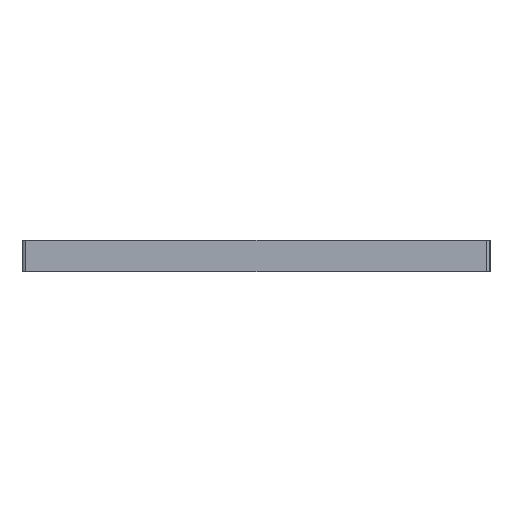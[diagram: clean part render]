
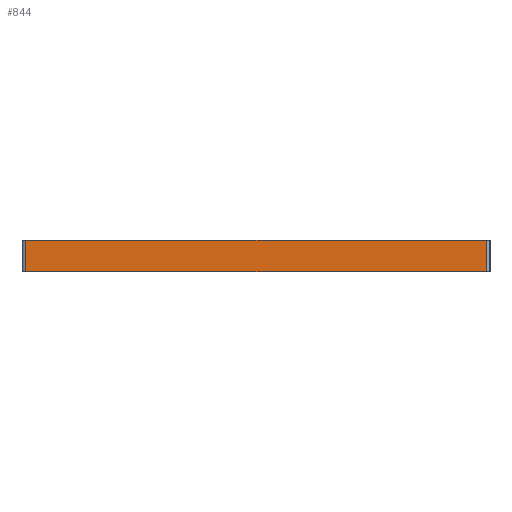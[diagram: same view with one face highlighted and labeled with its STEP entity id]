
A CAD part, left-side view. The second image highlights one B-rep face of the part: STEP entity #844.
In plain terms, the highlighted planar face has unit normal (-1, 0, 0).
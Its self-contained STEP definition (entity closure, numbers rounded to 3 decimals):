
#817=AXIS2_PLACEMENT_3D('Plane Axis2P3D',#814,#815,#816) ;
#64=CARTESIAN_POINT('Vertex',(0.,-2.5,20.)) ;
#67=CARTESIAN_POINT('Line Origine',(0.,-150.,20.)) ;
#71=CARTESIAN_POINT('Vertex',(0.,-297.5,20.)) ;
#814=CARTESIAN_POINT('Axis2P3D Location',(0.,0.,0.)) ;
#819=CARTESIAN_POINT('Line Origine',(0.,-2.5,10.)) ;
#823=CARTESIAN_POINT('Vertex',(0.,-2.5,0.)) ;
#826=CARTESIAN_POINT('Line Origine',(0.,-150.,0.)) ;
#830=CARTESIAN_POINT('Vertex',(0.,-297.5,0.)) ;
#833=CARTESIAN_POINT('Line Origine',(0.,-297.5,10.)) ;
#68=DIRECTION('Vector Direction',(0.,-1.,0.)) ;
#815=DIRECTION('Axis2P3D Direction',(-1.,0.,0.)) ;
#816=DIRECTION('Axis2P3D XDirection',(0.,-1.,0.)) ;
#820=DIRECTION('Vector Direction',(0.,0.,1.)) ;
#827=DIRECTION('Vector Direction',(0.,-1.,0.)) ;
#834=DIRECTION('Vector Direction',(0.,0.,1.)) ;
#69=VECTOR('Line Direction',#68,1.) ;
#821=VECTOR('Line Direction',#820,1.) ;
#828=VECTOR('Line Direction',#827,1.) ;
#835=VECTOR('Line Direction',#834,1.) ;
#839=ORIENTED_EDGE('',*,*,#73,.F.) ;
#840=ORIENTED_EDGE('',*,*,#825,.F.) ;
#841=ORIENTED_EDGE('',*,*,#832,.T.) ;
#842=ORIENTED_EDGE('',*,*,#837,.T.) ;
#844=ADVANCED_FACE('\X2\96F64EF651E04F554F53\X0\',(#843),#818,.T.) ;
#73=EDGE_CURVE('',#65,#72,#70,.T.) ;
#825=EDGE_CURVE('',#824,#65,#822,.T.) ;
#832=EDGE_CURVE('',#824,#831,#829,.T.) ;
#837=EDGE_CURVE('',#831,#72,#836,.T.) ;
#838=EDGE_LOOP('',(#839,#840,#841,#842)) ;
#843=FACE_OUTER_BOUND('',#838,.T.) ;
#70=LINE('Line',#67,#69) ;
#822=LINE('Line',#819,#821) ;
#829=LINE('Line',#826,#828) ;
#836=LINE('Line',#833,#835) ;
#818=PLANE('',#817) ;
#65=VERTEX_POINT('',#64) ;
#72=VERTEX_POINT('',#71) ;
#824=VERTEX_POINT('',#823) ;
#831=VERTEX_POINT('',#830) ;
